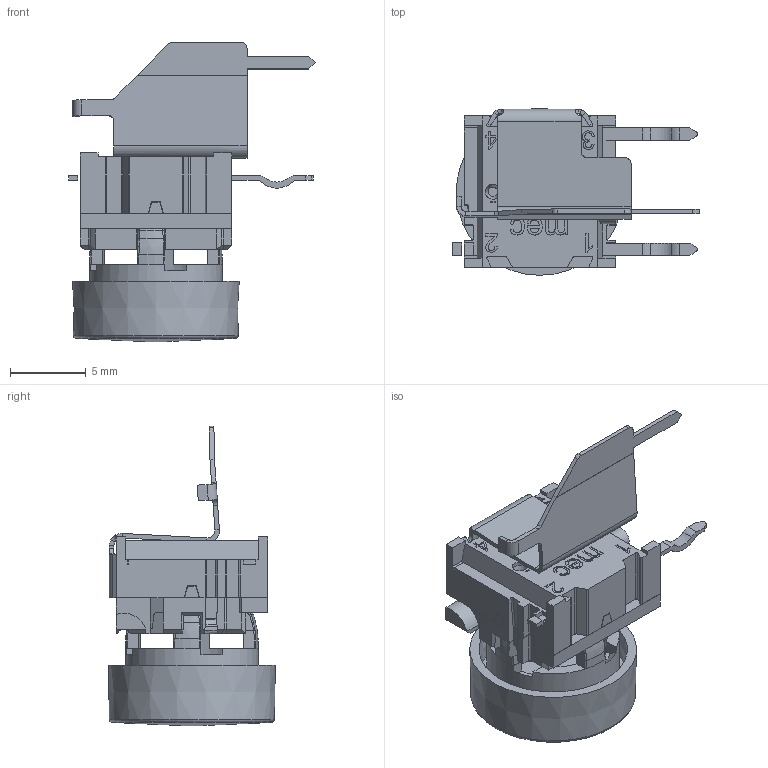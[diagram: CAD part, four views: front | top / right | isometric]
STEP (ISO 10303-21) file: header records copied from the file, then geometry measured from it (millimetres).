
FILE_DESCRIPTION(/* description */ (''),/* implementation_level */ '2;1');
FILE_NAME(/* name */ 'C:\Users\cgh.MEC\Desktop\Traceparts - 3D programserie\STEP filer\RAS\5GTH935RAS+1GAS.stp',/* time_stamp */ '2016-03-01T11:31:00+01:00',/* author */ ('cgh'),/* organization */ (''),/* preprocessor_version */ 'ST-DEVELOPER v15.2',/* originating_system */ 'Autodesk Inventor 2014',/* authorisation */ '');
FILE_SCHEMA (('AUTOMOTIVE_DESIGN { 1 0 10303 214 3 1 1 }'));
Length unit declared in the file: centimetre
Products named in the file (1): cgh
Bounding box: 16.29 x 11.01 x 19.82 mm (x, y, z)
Volume: 720.1 mm3; surface area: 1778.7 mm2
Topology: 2 solids, 15 shells, 1147 faces, 3243 edges, 2106 vertices
Faces by surface type: plane 728, cylinder 170, bspline 140, cone 59, torus 47, sphere 3
Full cylindrical faces by diameter (mm): 1 x3, 2.8 x1, 4.747 x1, 6.5 x1, 7.2 x1, 7.44 x1, 8.76 x1
Entity records: 41713 total; most frequent: CARTESIAN_POINT 11772, ORIENTED_EDGE 6422, DIRECTION 5424, EDGE_CURVE 3203, VERTEX_POINT 2091, LINE 2018, VECTOR 2018, AXIS2_PLACEMENT_3D 1703
